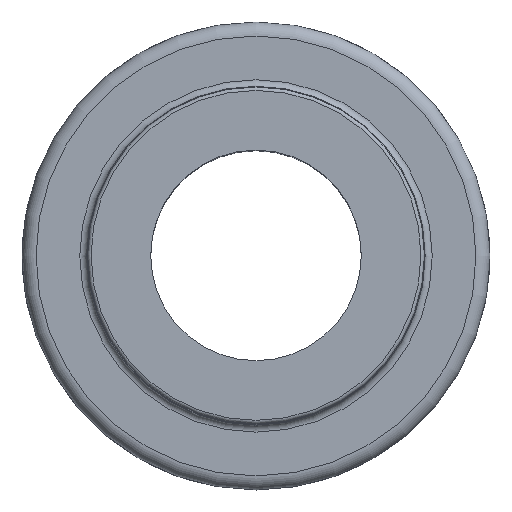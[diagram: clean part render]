
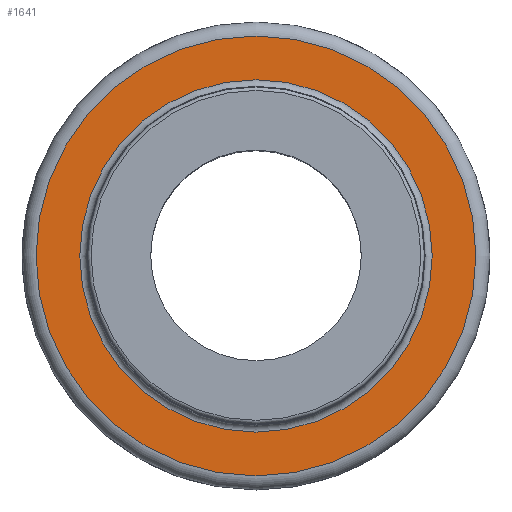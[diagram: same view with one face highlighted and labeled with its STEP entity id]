
A CAD part, top view. The second image highlights one B-rep face of the part: STEP entity #1641.
In plain terms, the highlighted planar face has unit normal (0, 0, 1).
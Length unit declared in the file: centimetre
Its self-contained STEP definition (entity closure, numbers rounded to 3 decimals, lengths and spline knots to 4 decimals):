
#143=PLANE('',#544);
#361=DIRECTION('',(0.,0.,-1.));
#362=DIRECTION('',(-2.388,0.,0.));
#363=DIRECTION('',(0.,0.,-1.));
#364=DIRECTION('',(0.,0.,1.));
#365=DIRECTION('',(1.913,0.,0.));
#543=AXIS2_PLACEMENT_3D('',#4739,#361,#362);
#544=AXIS2_PLACEMENT_3D('',#4741,#363,$);
#545=AXIS2_PLACEMENT_3D('',#4742,#364,#365);
#633=CIRCLE('',#543,2.3876);
#634=CIRCLE('',#545,1.9126);
#705=VERTEX_POINT('',#4740);
#706=VERTEX_POINT('',#4743);
#938=EDGE_CURVE('',#705,#705,#633,.T.);
#939=EDGE_CURVE('',#706,#706,#634,.T.);
#1178=ORIENTED_EDGE('',*,*,#939,.F.);
#1179=ORIENTED_EDGE('',*,*,#938,.F.);
#1443=EDGE_LOOP('',(#1178));
#1444=EDGE_LOOP('',(#1179));
#1545=FACE_BOUND('',#1443,.T.);
#1546=FACE_BOUND('',#1444,.T.);
#1641=ADVANCED_FACE('',(#1545,#1546),#143,.F.);
#4739=CARTESIAN_POINT('',(0.,0.,-3.4036));
#4740=CARTESIAN_POINT('',(2.3876,0.,-3.4036));
#4741=CARTESIAN_POINT('',(0.,0.,-3.4036));
#4742=CARTESIAN_POINT('',(0.,0.,-3.4036));
#4743=CARTESIAN_POINT('',(-1.9126,0.,-3.4036));
